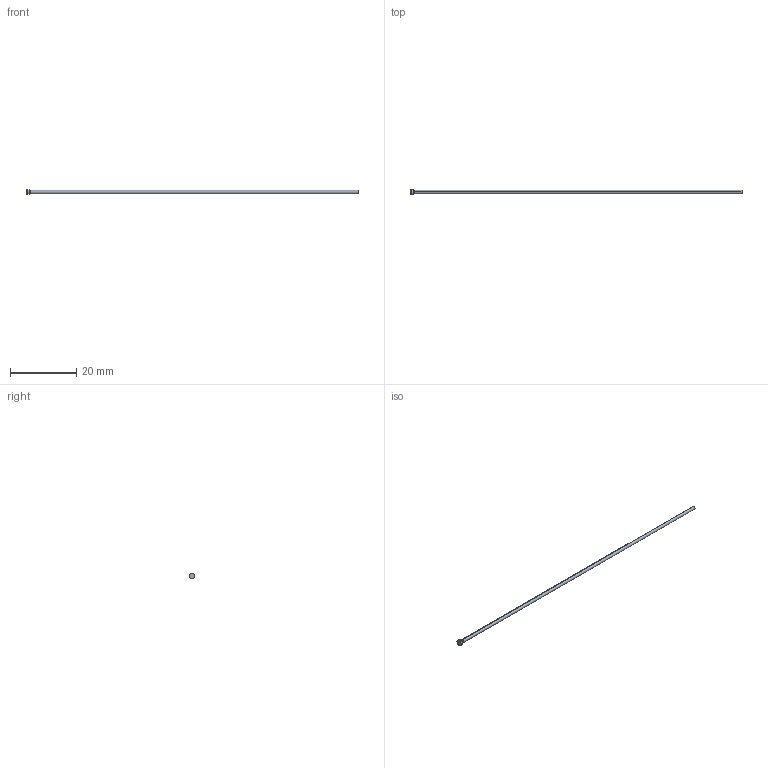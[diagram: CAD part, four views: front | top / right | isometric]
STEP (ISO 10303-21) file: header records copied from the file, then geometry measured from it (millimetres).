
FILE_DESCRIPTION (( 'STEP AP214' ), '1' );
FILE_NAME ('D-1x100.STEP', '2020-06-08T09:49:00', ( 'August' ), ( '' ), 'SwSTEP 2.0', 'SolidWorks 2018', '' );
FILE_SCHEMA (( 'AUTOMOTIVE_DESIGN' ));
Length unit declared in the file: millimetre
Products named in the file (1): D-1x100
Bounding box: 100 x 1.8 x 1.8 mm (x, y, z)
Volume: 80 mm3; surface area: 320.1 mm2
Topology: 1 solids, 1 shells, 10 faces, 18 edges, 10 vertices
Faces by surface type: cylinder 4, torus 2, cone 2, plane 2
Entity records: 280 total; most frequent: DIRECTION 52, CARTESIAN_POINT 39, ORIENTED_EDGE 36, AXIS2_PLACEMENT_3D 23, EDGE_CURVE 18, CIRCLE 12, EDGE_LOOP 10, ADVANCED_FACE 10
